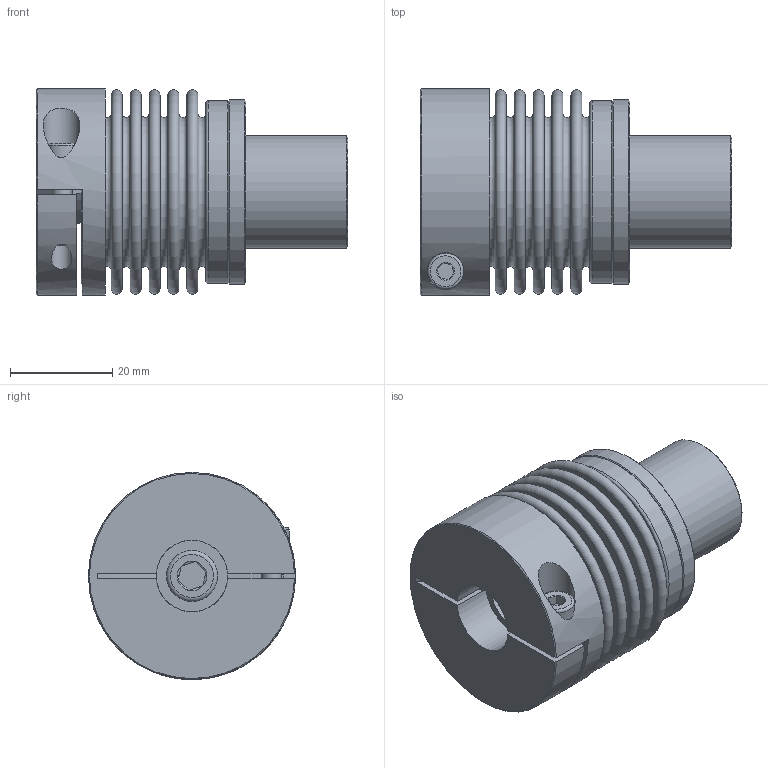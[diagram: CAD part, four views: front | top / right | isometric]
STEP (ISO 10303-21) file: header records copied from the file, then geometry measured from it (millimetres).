
FILE_DESCRIPTION( ( 'Unknown' ), '1' );
FILE_NAME( 'K:/Konstruktion/cad kunden/3D - Daten/KB3/KB3-100-41.stp', 'Unknown', ( 'Unknown' ), ( 'Unknown' ), 'PSStep 16.0.42', 'Unknown', ' ' );
FILE_SCHEMA( ( 'AUTOMOTIVE_DESIGN { 1 0 10303 214 1 1 1 1 }' ) );
Length unit declared in the file: millimetre
Products named in the file (6): Assem1; KN10_Standard_D10; BK100_Standard_2; SN100; ISO EN DIN 4762 M4x16; ISO EN DIN 4762 M6x25
Assembly tree (5 placements, depth 2):
  Assem1
    KN10_Standard_D10
    BK100_Standard_2
    SN100
    ISO EN DIN 4762 M4x16
    ISO EN DIN 4762 M6x25
Bounding box: 61 x 40.5 x 40.5 mm (x, y, z)
Volume: 31315.4 mm3; surface area: 29260.3 mm2
Topology: 5 solids, 5 shells, 135 faces, 245 edges, 154 vertices
Faces by surface type: plane 63, torus 30, cylinder 23, cone 19
Full cylindrical faces by diameter (mm): 3.5 x1, 4 x3, 4.2 x1, 5 x1, 6 x2, 6.5 x1, 7 x1, 7.2 x1, 10 x1, 14 x1, 22 x1, 35.2 x3, 35.8 x2, 36 x1, 40.5 x1
Entity records: 4351 total; most frequent: CARTESIAN_POINT 690, DIRECTION 561, ORIENTED_EDGE 352, AXIS2_PLACEMENT_3D 261, EDGE_LOOP 236, FACE_OUTER_BOUND 186, EDGE_CURVE 176, VERTEX_POINT 152
